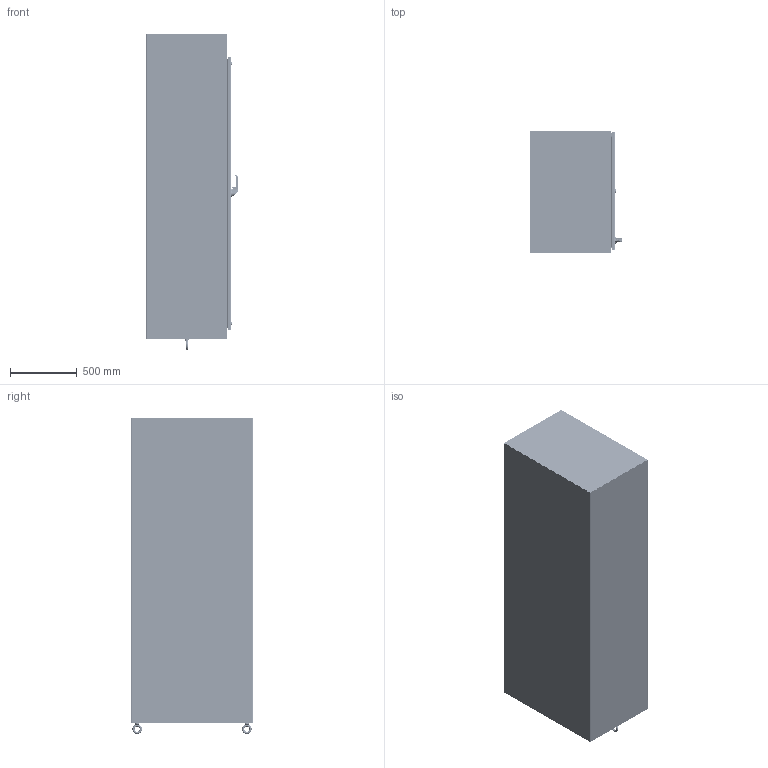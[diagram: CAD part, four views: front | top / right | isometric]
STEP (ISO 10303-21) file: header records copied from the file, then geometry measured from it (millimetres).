
FILE_DESCRIPTION((''),'2;1');
FILE_NAME('MODEL-237_ASM','2026-04-28T15:36:10',('joshi'),('SAGINAW CONTROL & ENGINEERING'),'CREO PARAMETRIC BY PTC INC, 2021284','CREO PARAMETRIC BY PTC INC, 2021284','');
FILE_SCHEMA(('AUTOMOTIVE_DESIGN { 1 0 10303 214 1 1 1 1 }'));
Length unit declared in the file: inch
Products named in the file (66): MODEL-237-L-SD; MODEL-237-TP; MODEL-237-R-SD; MODEL-237-BTM; MODEL-237-DR; 100837; 111267; 100882; 100955_SCREW_MTG; 100955_PADLOCK_CATCH; 100955_SCREW_LARGE; 100955_INSERT_SHAFT; 100955_INSERT_PKH; 100955_GASKET; 100955_O-RING; 100955_BASE; 100955_SPRING; 100955_HANDLE; 100955_CAM_SHAFT; 100955_HANDLE_ASM; 100955_CAM_ADAPTER; 100955_EARTH_NUT; 100955_FLANGE_NUT; 100955_CAM_NUT; 100955_KEY_INSERT; 100955_SPRING_CAM; 100955_TORSION_SPRING; 100955_SCREW_INSERT; 100955_ASM; 102237; 100030; 102237_ASM; MODEL-237-ROD-UPR; 128146; 128145; 128144; 102482; MODEL-237-ROD-UPR_ASM; 128143; 112504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
Assembly tree (120 placements, depth 5):
  MODEL-237_ASM
    MODEL-237-L-SD
    MODEL-237-TP
    MODEL-237-R-SD
    MODEL-237-BTM
    MODEL-237-DOOR-ASSY_ASM
      MODEL-237-DR
      100837  x5
      111267
      100882  x12
      100955_ASM
        100955_SCREW_MTG
        100955_PADLOCK_CATCH
        100955_SCREW_LARGE  x2
        100955_INSERT_SHAFT
        100955_INSERT_PKH
        100955_GASKET
        100955_O-RING
        100955_BASE
        100955_SPRING
        100955_HANDLE_ASM
          100955_HANDLE
          100955_CAM_SHAFT
        100955_CAM_ADAPTER
        100955_EARTH_NUT
        100955_FLANGE_NUT
        100955_CAM_NUT
        100955_KEY_INSERT
        100955_SPRING_CAM
        100955_TORSION_SPRING
        100955_SCREW_INSERT
      102237_ASM
        102237
        100030  x2
      MODEL-237-ROD-UPR_ASM
        MODEL-237-ROD-UPR
        128146
        128145
        128144
        102482  x2
      128143  x2
      112504  x2
      MODEL-237-ROD-LWR_ASM
        MODEL-237-ROD-LWR
        128146
        128145
        128144
        102482  x2
      MODEL-237-PR-GSKT
      113885_ASM  x2
        113885_SHAFT
        113885_INSERT
        113885_CAM_30MM
        113885_NUT
        113885_SCREW
      128258_ASM  x4
        128258
      126395  x4
      102483  x4
      101383_ASM  x4
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Bounding box: 687.85 x 914.4 x 2365.04 mm (x, y, z)
Volume: 25052121.7 mm3; surface area: 18674014.6 mm2
Topology: 129 solids, 129 shells, 12864 faces, 33174 edges, 20569 vertices
Faces by surface type: plane 4691, cylinder 3385, bspline 2930, torus 861, cone 693, sphere 274, extrusion 30
Entity records: 379408 total; most frequent: CARTESIAN_POINT 153174, ORIENTED_EDGE 34984, DIRECTION 31418, PRESENTATION_STYLE_ASSIGNMENT 17982, STYLED_ITEM 17700, EDGE_CURVE 17492, CURVE_STYLE 17282, AXIS2_PLACEMENT_3D 11609
